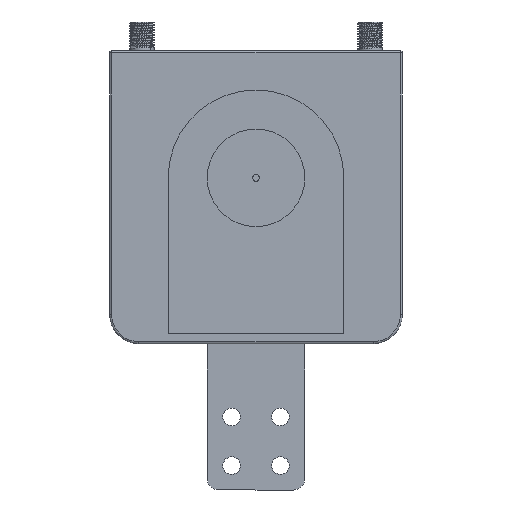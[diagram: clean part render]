
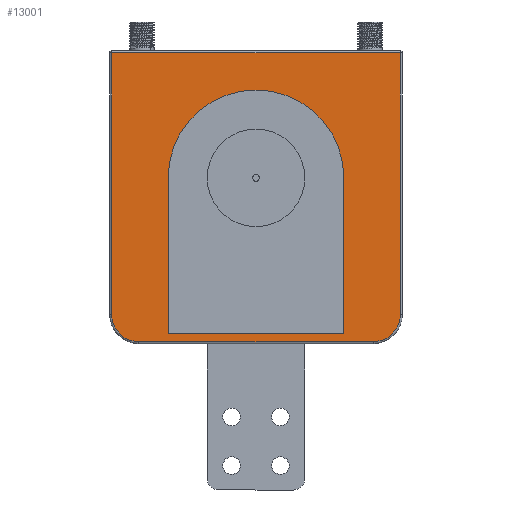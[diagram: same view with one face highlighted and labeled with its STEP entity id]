
A CAD part, front view. The second image highlights one B-rep face of the part: STEP entity #13001.
In plain terms, the highlighted planar face has unit normal (0, -1, 0).
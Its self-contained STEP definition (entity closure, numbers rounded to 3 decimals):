
#516 = DIRECTION ( 'NONE',  ( 0., 0., 1. ) ) ;
#554 = ORIENTED_EDGE ( 'NONE', *, *, #24747, .F. ) ;
#764 = ORIENTED_EDGE ( 'NONE', *, *, #7976, .F. ) ;
#893 = DIRECTION ( 'NONE',  ( -1., 0., 0. ) ) ;
#1104 = CARTESIAN_POINT ( 'NONE',  ( 74., 0., -60. ) ) ;
#1395 = DIRECTION ( 'NONE',  ( 0., 0., 1. ) ) ;
#2070 = AXIS2_PLACEMENT_3D ( 'NONE', #34095, #31563, #1395 ) ;
#2272 = CARTESIAN_POINT ( 'NONE',  ( 60., 0., -60. ) ) ;
#2773 = ORIENTED_EDGE ( 'NONE', *, *, #5262, .T. ) ;
#2801 = CARTESIAN_POINT ( 'NONE',  ( 45., 0., -70. ) ) ;
#2955 = VECTOR ( 'NONE', #21234, 1000. ) ;
#3046 = AXIS2_PLACEMENT_3D ( 'NONE', #17143, #6315, #516 ) ;
#3123 = VECTOR ( 'NONE', #893, 1000. ) ;
#3134 = VERTEX_POINT ( 'NONE', #2801 ) ;
#3268 = LINE ( 'NONE', #12273, #3123 ) ;
#3626 = CARTESIAN_POINT ( 'NONE',  ( 74., 0., 0. ) ) ;
#4325 = EDGE_CURVE ( 'NONE', #15800, #10005, #9731, .T. ) ;
#4664 = CARTESIAN_POINT ( 'NONE',  ( 45., 0., 10. ) ) ;
#5157 = ORIENTED_EDGE ( 'NONE', *, *, #23360, .T. ) ;
#5262 = EDGE_CURVE ( 'NONE', #14123, #15800, #34975, .T. ) ;
#5950 = CARTESIAN_POINT ( 'NONE',  ( 74., 0., 74. ) ) ;
#6007 = VECTOR ( 'NONE', #14271, 1000. ) ;
#6269 = CARTESIAN_POINT ( 'NONE',  ( 45., 0., 10. ) ) ;
#6315 = DIRECTION ( 'NONE',  ( 0., -1., 0. ) ) ;
#6332 = VECTOR ( 'NONE', #26481, 1000. ) ;
#6482 = FACE_OUTER_BOUND ( 'NONE', #26378, .T. ) ;
#6687 = LINE ( 'NONE', #3626, #6007 ) ;
#6801 = LINE ( 'NONE', #6269, #19100 ) ;
#6815 = CARTESIAN_POINT ( 'NONE',  ( 0., 0., -74. ) ) ;
#7215 = ORIENTED_EDGE ( 'NONE', *, *, #4325, .T. ) ;
#7584 = DIRECTION ( 'NONE',  ( 0., 0., 1. ) ) ;
#7976 = EDGE_CURVE ( 'NONE', #3134, #21230, #6801, .T. ) ;
#8096 = EDGE_CURVE ( 'NONE', #8988, #22185, #33092, .T. ) ;
#8988 = VERTEX_POINT ( 'NONE', #19818 ) ;
#9381 = CARTESIAN_POINT ( 'NONE',  ( -74., 0., -60. ) ) ;
#9626 = LINE ( 'NONE', #31116, #31819 ) ;
#9731 = CIRCLE ( 'NONE', #12618, 14. ) ;
#10005 = VERTEX_POINT ( 'NONE', #1104 ) ;
#10046 = CARTESIAN_POINT ( 'NONE',  ( -45., 0., -70. ) ) ;
#10845 = ORIENTED_EDGE ( 'NONE', *, *, #8096, .T. ) ;
#12273 = CARTESIAN_POINT ( 'NONE',  ( 0., 0., 74. ) ) ;
#12397 = CIRCLE ( 'NONE', #34908, 45. ) ;
#12618 = AXIS2_PLACEMENT_3D ( 'NONE', #2272, #13292, #32613 ) ;
#13001 = ADVANCED_FACE ( 'NONE', ( #20195, #6482 ), #20551, .F. ) ;
#13292 = DIRECTION ( 'NONE',  ( 0., -1., 0. ) ) ;
#13527 = CARTESIAN_POINT ( 'NONE',  ( 0., 0., 10. ) ) ;
#14123 = VERTEX_POINT ( 'NONE', #16957 ) ;
#14271 = DIRECTION ( 'NONE',  ( 0., 0., 1. ) ) ;
#15227 = ORIENTED_EDGE ( 'NONE', *, *, #34383, .F. ) ;
#15800 = VERTEX_POINT ( 'NONE', #32226 ) ;
#16574 = ORIENTED_EDGE ( 'NONE', *, *, #22248, .T. ) ;
#16773 = CARTESIAN_POINT ( 'NONE',  ( -45., 0., -70. ) ) ;
#16957 = CARTESIAN_POINT ( 'NONE',  ( -60., 0., -74. ) ) ;
#17143 = CARTESIAN_POINT ( 'NONE',  ( -60., 0., -60. ) ) ;
#17275 = DIRECTION ( 'NONE',  ( 0., 0., 1. ) ) ;
#17396 = DIRECTION ( 'NONE',  ( 1., 0., 0. ) ) ;
#19100 = VECTOR ( 'NONE', #17275, 1000. ) ;
#19134 = LINE ( 'NONE', #16773, #27430 ) ;
#19234 = CARTESIAN_POINT ( 'NONE',  ( -45., 0., 10. ) ) ;
#19818 = CARTESIAN_POINT ( 'NONE',  ( -74., 0., 74. ) ) ;
#19878 = VERTEX_POINT ( 'NONE', #5950 ) ;
#20195 = FACE_BOUND ( 'NONE', #29309, .T. ) ;
#20551 = PLANE ( 'NONE',  #2070 ) ;
#21230 = VERTEX_POINT ( 'NONE', #4664 ) ;
#21234 = DIRECTION ( 'NONE',  ( 0., 0., -1. ) ) ;
#21406 = CARTESIAN_POINT ( 'NONE',  ( -74., 0., 0. ) ) ;
#22185 = VERTEX_POINT ( 'NONE', #9381 ) ;
#22248 = EDGE_CURVE ( 'NONE', #22185, #14123, #24376, .T. ) ;
#22857 = VERTEX_POINT ( 'NONE', #10046 ) ;
#23360 = EDGE_CURVE ( 'NONE', #19878, #8988, #3268, .T. ) ;
#23404 = EDGE_CURVE ( 'NONE', #10005, #19878, #6687, .T. ) ;
#24376 = CIRCLE ( 'NONE', #3046, 14. ) ;
#24747 = EDGE_CURVE ( 'NONE', #26349, #22857, #19134, .T. ) ;
#26349 = VERTEX_POINT ( 'NONE', #19234 ) ;
#26378 = EDGE_LOOP ( 'NONE', ( #27854, #5157, #10845, #16574, #2773, #7215 ) ) ;
#26481 = DIRECTION ( 'NONE',  ( 1., 0., 0. ) ) ;
#27430 = VECTOR ( 'NONE', #27792, 1000. ) ;
#27792 = DIRECTION ( 'NONE',  ( 0., 0., -1. ) ) ;
#27854 = ORIENTED_EDGE ( 'NONE', *, *, #23404, .T. ) ;
#29309 = EDGE_LOOP ( 'NONE', ( #554, #15227, #764, #35142 ) ) ;
#29522 = EDGE_CURVE ( 'NONE', #22857, #3134, #9626, .T. ) ;
#30141 = DIRECTION ( 'NONE',  ( 0., -1., 0. ) ) ;
#31116 = CARTESIAN_POINT ( 'NONE',  ( 45., 0., -70. ) ) ;
#31563 = DIRECTION ( 'NONE',  ( 0., 1., 0. ) ) ;
#31819 = VECTOR ( 'NONE', #17396, 1000. ) ;
#32226 = CARTESIAN_POINT ( 'NONE',  ( 60., 0., -74. ) ) ;
#32613 = DIRECTION ( 'NONE',  ( 0., 0., 1. ) ) ;
#33092 = LINE ( 'NONE', #21406, #2955 ) ;
#34095 = CARTESIAN_POINT ( 'NONE',  ( 0., 0., 0. ) ) ;
#34383 = EDGE_CURVE ( 'NONE', #21230, #26349, #12397, .T. ) ;
#34908 = AXIS2_PLACEMENT_3D ( 'NONE', #13527, #30141, #7584 ) ;
#34975 = LINE ( 'NONE', #6815, #6332 ) ;
#35142 = ORIENTED_EDGE ( 'NONE', *, *, #29522, .F. ) ;
